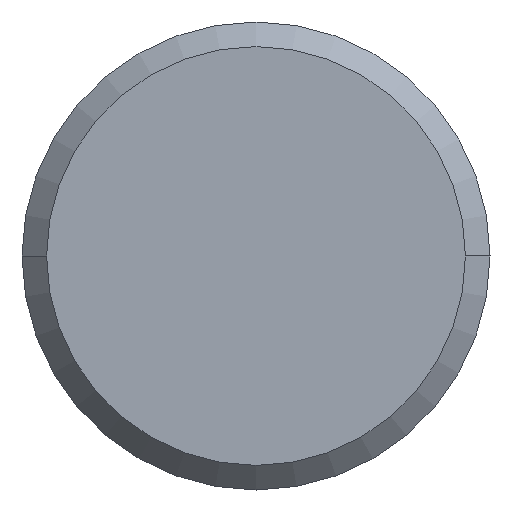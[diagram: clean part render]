
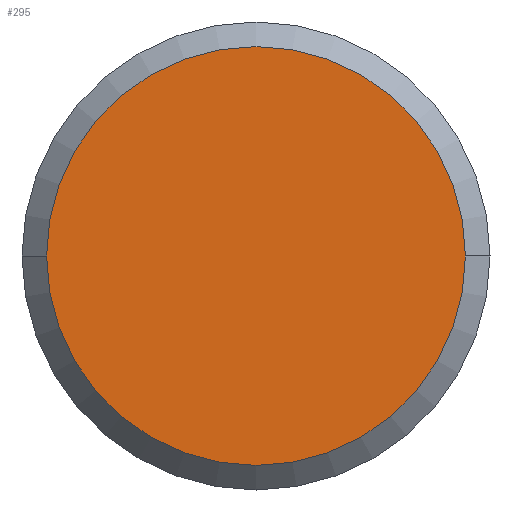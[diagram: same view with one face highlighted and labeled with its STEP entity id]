
A CAD part, left-side view. The second image highlights one B-rep face of the part: STEP entity #295.
In plain terms, the highlighted planar face has unit normal (-1, 0, 0).
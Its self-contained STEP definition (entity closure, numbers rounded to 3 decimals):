
#3 = EDGE_LOOP ( 'NONE', ( #345, #464 ) ) ;
#9 = CIRCLE ( 'NONE', #463, 4.262 ) ;
#16 = DIRECTION ( 'NONE',  ( 0., 1., 0. ) ) ;
#53 = EDGE_CURVE ( 'NONE', #94, #122, #182, .T. ) ;
#67 = AXIS2_PLACEMENT_3D ( 'NONE', #445, #446, #321 ) ;
#94 = VERTEX_POINT ( 'NONE', #111 ) ;
#102 = PLANE ( 'NONE',  #133 ) ;
#109 = DIRECTION ( 'NONE',  ( 1., 0., 0. ) ) ;
#111 = CARTESIAN_POINT ( 'NONE',  ( -45.037, -4.263, 0. ) ) ;
#122 = VERTEX_POINT ( 'NONE', #492 ) ;
#133 = AXIS2_PLACEMENT_3D ( 'NONE', #519, #423, #426 ) ;
#182 = CIRCLE ( 'NONE', #67, 4.262 ) ;
#229 = FACE_OUTER_BOUND ( 'NONE', #3, .T. ) ;
#276 = EDGE_CURVE ( 'NONE', #122, #94, #9, .T. ) ;
#295 = ADVANCED_FACE ( 'NONE', ( #229 ), #102, .T. ) ;
#321 = DIRECTION ( 'NONE',  ( 0., 1., 0. ) ) ;
#345 = ORIENTED_EDGE ( 'NONE', *, *, #276, .F. ) ;
#352 = CARTESIAN_POINT ( 'NONE',  ( -45.037, 0., 0. ) ) ;
#423 = DIRECTION ( 'NONE',  ( -1., 0., 0. ) ) ;
#426 = DIRECTION ( 'NONE',  ( 0., -1., 0. ) ) ;
#445 = CARTESIAN_POINT ( 'NONE',  ( -45.037, 0., 0. ) ) ;
#446 = DIRECTION ( 'NONE',  ( 1., 0., 0. ) ) ;
#463 = AXIS2_PLACEMENT_3D ( 'NONE', #352, #109, #16 ) ;
#464 = ORIENTED_EDGE ( 'NONE', *, *, #53, .F. ) ;
#492 = CARTESIAN_POINT ( 'NONE',  ( -45.037, 4.262, 0. ) ) ;
#519 = CARTESIAN_POINT ( 'NONE',  ( -45.037, 0., 0. ) ) ;
